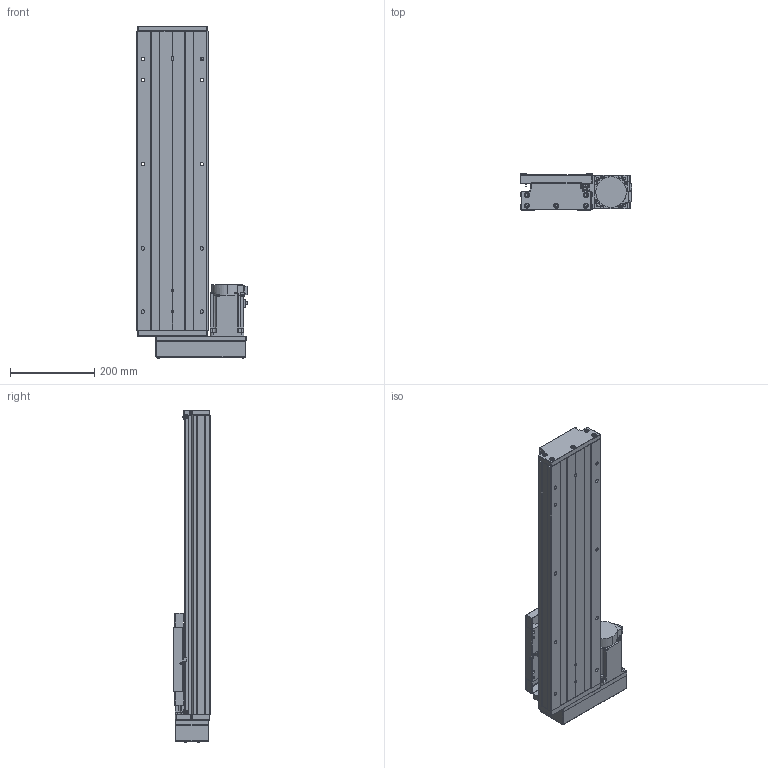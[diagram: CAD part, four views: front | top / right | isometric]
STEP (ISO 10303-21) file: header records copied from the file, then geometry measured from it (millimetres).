
FILE_DESCRIPTION (( 'STEP AP203' ), '1' );
FILE_NAME ('GTH17-450-BR-M75-C4.step', '2023-06-30T13:18:41', ( '微软用户' ), ( '微软中国' ), 'SwSTEP 2.0', 'SolidWorks 2020', '' );
FILE_SCHEMA (( 'CONFIG_CONTROL_DESIGN' ));
Length unit declared in the file: millimetre
Products named in the file (19): GTH17-004; GBT77-2000 M3×3; GTH17-015-2_CTHA86-015-2; GTH17-005; GBT 70.1-M6¡Á20_M6¡Á20; GTH17-033; GB1155-6X6; GTH17-031; GTH17-450-BR-M75-C4; CTHA60-017; GBT 70.2-M3¡Á5_M3¡Á6; EE_SX911P_R; す晦芛蹟隊 M3℅5; GTH17-001_450; CTHA60-016; HG-KN73J-S100; GTH17-002_GTH17-002; GBT 70.1-M3℅5; GBT 70.2-M4¡Á45_M4¡Á35
Assembly tree (58 placements, depth 2):
  GTH17-450-BR-M75-C4
    GTH17-001_450
    GTH17-002_GTH17-002
    GTH17-004
    GTH17-005
    GB1155-6X6  x2
    CTHA60-017  x3
    EE_SX911P_R  x3
    CTHA60-016  x2
    GBT 70.1-M3℅5  x6
    GBT77-2000 M3×3  x6
    GBT 70.1-M6¡Á20_M6¡Á20  x10
    GTH17-031
    GBT 70.2-M3¡Á5_M3¡Á6  x8
    す晦芛蹟隊 M3℅5  x6
    HG-KN73J-S100
    GBT 70.2-M4¡Á45_M4¡Á35  x4
    GTH17-015-2_CTHA86-015-2
    GTH17-033
Bounding box: 264.3 x 87 x 788.2 mm (x, y, z)
Volume: 6857359.4 mm3; surface area: 1016669.8 mm2
Topology: 61 solids, 61 shells, 2439 faces, 5821 edges, 3603 vertices
Faces by surface type: plane 1308, cylinder 658, cone 297, torus 124, sphere 32, bspline 20
Entity records: 44430 total; most frequent: CARTESIAN_POINT 10316, DIRECTION 6421, ORIENTED_EDGE 6354, EDGE_CURVE 3177, AXIS2_PLACEMENT_3D 2186, LINE 2049, VECTOR 2049, VERTEX_POINT 2015
